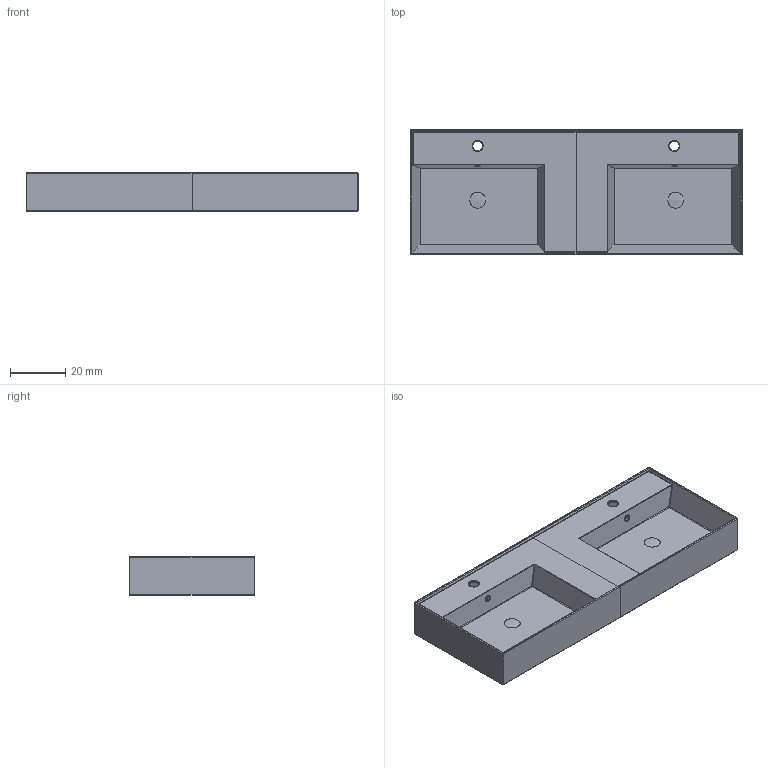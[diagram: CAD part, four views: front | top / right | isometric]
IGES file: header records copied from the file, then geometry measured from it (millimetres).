
Global section: file name: C:\Users\Massimiliano\Desktop\art. 5143.igs; native system: Rhinoceros ( Mar 28 2013 ); preprocessor: Trout Lake IGES 012 Mar 28 2013; date: 200901.082952; units: millimetre
Bounding box: 120 x 45.5 x 14 mm (x, y, z)
Surface area: 20211.2 mm2 (no closed solid volume)
Topology: 0 solids, 0 shells, 123 faces, 656 edges, 649 vertices
Faces by surface type: bspline 123
